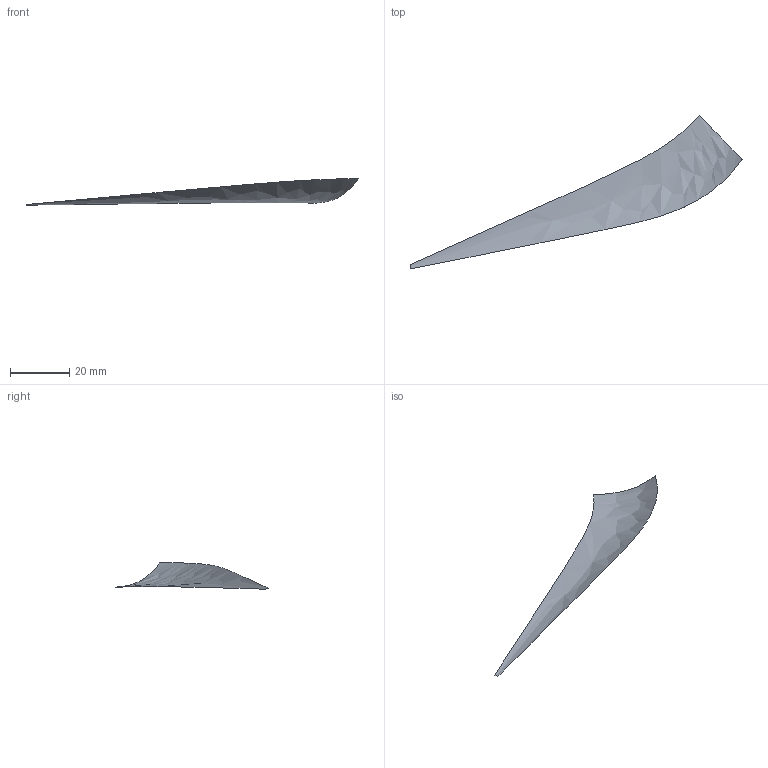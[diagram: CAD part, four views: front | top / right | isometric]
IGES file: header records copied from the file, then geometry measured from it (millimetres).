
Start section: START RECORD GO HERE
Global section: file name: t3.igs; native system: IBM CATIA IGES - CATIA SOLUTIONS V4RELEASE 1.9 REFRESH 01; preprocessor: CATIA SOLUTIONS V4RELEASE 1.9 REFRESH 01; author: cky; date: 990510.133752; units: millimetre
Bounding box: 111.88 x 51.79 x 8.86 mm (x, y, z)
Surface area: 1687.8 mm2 (no closed solid volume)
Topology: 0 solids, 0 shells, 1 faces, 25 edges, 25 vertices
Faces by surface type: bspline 1
